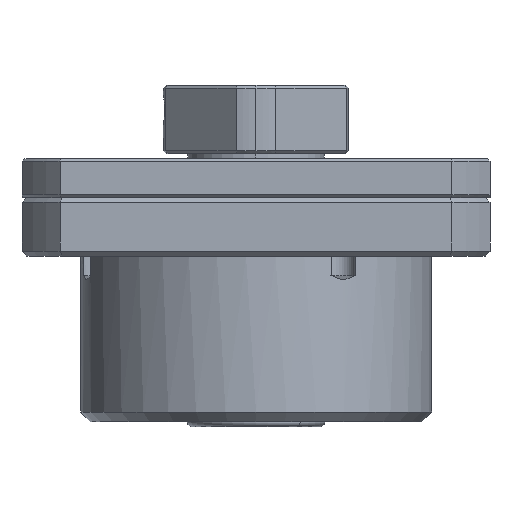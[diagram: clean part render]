
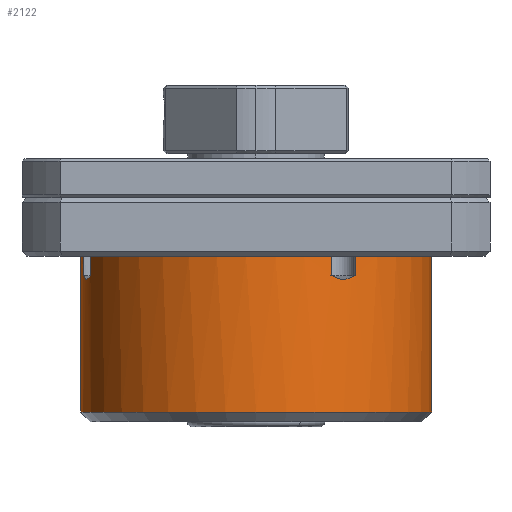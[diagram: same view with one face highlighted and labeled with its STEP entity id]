
A CAD part, front view. The second image highlights one B-rep face of the part: STEP entity #2122.
In plain terms, the highlighted cylindrical face has radius 18 mm (diameter 36 mm), a partial arc.
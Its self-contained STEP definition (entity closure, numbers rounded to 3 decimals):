
#24 = VERTEX_POINT ( 'NONE', #2241 ) ;
#143 = DIRECTION ( 'NONE',  ( 0., 0., 1. ) ) ;
#187 = ORIENTED_EDGE ( 'NONE', *, *, #867, .F. ) ;
#312 = DIRECTION ( 'NONE',  ( 0., 0., 1. ) ) ;
#313 = DIRECTION ( 'NONE',  ( 0., 0., 1. ) ) ;
#333 = ORIENTED_EDGE ( 'NONE', *, *, #2961, .F. ) ;
#352 = VECTOR ( 'NONE', #143, 1000. ) ;
#401 = CARTESIAN_POINT ( 'NONE',  ( -18., 0., -22. ) ) ;
#409 = CARTESIAN_POINT ( 'NONE',  ( -17.121, -5.561, -8.2 ) ) ;
#467 = CARTESIAN_POINT ( 'NONE',  ( -18., 0., 29.63 ) ) ;
#471 = LINE ( 'NONE', #3465, #5618 ) ;
#589 = CIRCLE ( 'NONE', #3298, 18. ) ;
#702 = DIRECTION ( 'NONE',  ( 0., 0., 1. ) ) ;
#800 = CARTESIAN_POINT ( 'NONE',  ( -17.322, -4.893, -8.392 ) ) ;
#828 = CARTESIAN_POINT ( 'NONE',  ( -17.256, -5.122, -8.346 ) ) ;
#867 = EDGE_CURVE ( 'NONE', #4988, #6757, #589, .T. ) ;
#937 = DIRECTION ( 'NONE',  ( 1., 0., 0. ) ) ;
#953 = LINE ( 'NONE', #467, #3035 ) ;
#1023 = CARTESIAN_POINT ( 'NONE',  ( -17.223, -5.233, -8.314 ) ) ;
#1040 = ORIENTED_EDGE ( 'NONE', *, *, #2253, .T. ) ;
#1124 = CARTESIAN_POINT ( 'NONE',  ( -18., 0., -6. ) ) ;
#1145 = VERTEX_POINT ( 'NONE', #6844 ) ;
#1164 = CARTESIAN_POINT ( 'NONE',  ( 7.777, -16.233, -4.287 ) ) ;
#1235 = EDGE_CURVE ( 'NONE', #6854, #6045, #3124, .T. ) ;
#1257 = VECTOR ( 'NONE', #313, 1000. ) ;
#1280 = VERTEX_POINT ( 'NONE', #4037 ) ;
#1530 = DIRECTION ( 'NONE',  ( 0., 0., -1. ) ) ;
#1694 = CARTESIAN_POINT ( 'NONE',  ( 0., 0., -6. ) ) ;
#1700 = CARTESIAN_POINT ( 'NONE',  ( -17.693, -3.31, -8. ) ) ;
#1727 = LINE ( 'NONE', #3968, #5720 ) ;
#1908 = CARTESIAN_POINT ( 'NONE',  ( 0., 0., 29.63 ) ) ;
#2122 = ADVANCED_FACE ( 'NONE', ( #5605 ), #5305, .T. ) ;
#2232 = CARTESIAN_POINT ( 'NONE',  ( -16.978, -5.98, -4.287 ) ) ;
#2240 = CARTESIAN_POINT ( 'NONE',  ( 8.174, -16.039, -8.2 ) ) ;
#2241 = CARTESIAN_POINT ( 'NONE',  ( 18., 0., -6. ) ) ;
#2253 = EDGE_CURVE ( 'NONE', #1280, #24, #471, .T. ) ;
#2318 = CARTESIAN_POINT ( 'NONE',  ( 7.975, -16.138, -8.103 ) ) ;
#2332 = ORIENTED_EDGE ( 'NONE', *, *, #2885, .F. ) ;
#2351 = CARTESIAN_POINT ( 'NONE',  ( 10.17, -14.852, -8. ) ) ;
#2408 = DIRECTION ( 'NONE',  ( 0., 0., -1. ) ) ;
#2453 = ORIENTED_EDGE ( 'NONE', *, *, #7899, .F. ) ;
#2456 = CARTESIAN_POINT ( 'NONE',  ( -16.978, -5.98, -6. ) ) ;
#2661 = ORIENTED_EDGE ( 'NONE', *, *, #4602, .F. ) ;
#2859 = DIRECTION ( 'NONE',  ( 1., 0., 0. ) ) ;
#2885 = EDGE_CURVE ( 'NONE', #3387, #24, #3931, .T. ) ;
#2923 = VERTEX_POINT ( 'NONE', #4088 ) ;
#2951 = CARTESIAN_POINT ( 'NONE',  ( 7.777, -16.233, -8. ) ) ;
#2961 = EDGE_CURVE ( 'NONE', #1145, #7462, #3203, .T. ) ;
#3035 = VECTOR ( 'NONE', #4469, 1000. ) ;
#3100 = ORIENTED_EDGE ( 'NONE', *, *, #5813, .F. ) ;
#3124 = LINE ( 'NONE', #2232, #1257 ) ;
#3138 = EDGE_CURVE ( 'NONE', #3851, #1280, #6025, .T. ) ;
#3172 = AXIS2_PLACEMENT_3D ( 'NONE', #7677, #702, #3393 ) ;
#3203 = LINE ( 'NONE', #1164, #7978 ) ;
#3282 = CARTESIAN_POINT ( 'NONE',  ( 10.17, -14.852, -4.287 ) ) ;
#3298 = AXIS2_PLACEMENT_3D ( 'NONE', #5368, #6598, #2859 ) ;
#3323 = AXIS2_PLACEMENT_3D ( 'NONE', #1694, #7434, #937 ) ;
#3387 = VERTEX_POINT ( 'NONE', #5118 ) ;
#3393 = DIRECTION ( 'NONE',  ( 1., 0., 0. ) ) ;
#3465 = CARTESIAN_POINT ( 'NONE',  ( 18., 0., 29.63 ) ) ;
#3471 = EDGE_CURVE ( 'NONE', #7462, #4229, #5192, .T. ) ;
#3593 = CARTESIAN_POINT ( 'NONE',  ( 9.105, -15.528, -8.406 ) ) ;
#3658 = ORIENTED_EDGE ( 'NONE', *, *, #6689, .F. ) ;
#3787 = DIRECTION ( 'NONE',  ( -1., 0., 0. ) ) ;
#3851 = VERTEX_POINT ( 'NONE', #401 ) ;
#3869 = CARTESIAN_POINT ( 'NONE',  ( 9.21, -15.466, -8.392 ) ) ;
#3877 = EDGE_CURVE ( 'NONE', #3851, #4988, #953, .T. ) ;
#3931 = CIRCLE ( 'NONE', #3323, 18. ) ;
#3968 = CARTESIAN_POINT ( 'NONE',  ( -17.693, -3.31, -4.287 ) ) ;
#4037 = CARTESIAN_POINT ( 'NONE',  ( 18., 0., -22. ) ) ;
#4088 = CARTESIAN_POINT ( 'NONE',  ( -17.693, -3.31, -8. ) ) ;
#4229 = VERTEX_POINT ( 'NONE', #5043 ) ;
#4469 = DIRECTION ( 'NONE',  ( 0., 0., 1. ) ) ;
#4594 = LINE ( 'NONE', #3282, #352 ) ;
#4602 = EDGE_CURVE ( 'NONE', #6045, #1145, #6498, .T. ) ;
#4757 = AXIS2_PLACEMENT_3D ( 'NONE', #6555, #7271, #3787 ) ;
#4777 = CARTESIAN_POINT ( 'NONE',  ( -17.608, -3.744, -8.2 ) ) ;
#4953 = EDGE_LOOP ( 'NONE', ( #7998, #6858, #1040, #2332, #3658, #6551, #333, #2661, #7050, #3100, #2453, #187 ) ) ;
#4988 = VERTEX_POINT ( 'NONE', #1124 ) ;
#5043 = CARTESIAN_POINT ( 'NONE',  ( 10.17, -14.852, -8. ) ) ;
#5118 = CARTESIAN_POINT ( 'NONE',  ( 10.17, -14.852, -6. ) ) ;
#5192 = B_SPLINE_CURVE_WITH_KNOTS ( 'NONE', 3,
 ( #2951, #2318, #2240, #6795, #7327, #3593, #3869, #6074, #6634, #5480, #6102, #2351 ),
 .UNSPECIFIED., .F., .F.,
 ( 4, 2, 2, 2, 2, 4 ),
 ( 0., 0.001, 0.001, 0.002, 0.002, 0.003 ),
 .UNSPECIFIED. ) ;
#5216 = CARTESIAN_POINT ( 'NONE',  ( -17.051, -5.772, -8.103 ) ) ;
#5305 = CYLINDRICAL_SURFACE ( 'NONE', #8114, 18. ) ;
#5327 = CARTESIAN_POINT ( 'NONE',  ( -17.653, -3.527, -8.103 ) ) ;
#5368 = CARTESIAN_POINT ( 'NONE',  ( 0., 0., -6. ) ) ;
#5480 = CARTESIAN_POINT ( 'NONE',  ( 9.803, -15.098, -8.2 ) ) ;
#5605 = FACE_OUTER_BOUND ( 'NONE', #4953, .T. ) ;
#5618 = VECTOR ( 'NONE', #312, 1000. ) ;
#5720 = VECTOR ( 'NONE', #1530, 1000. ) ;
#5813 = EDGE_CURVE ( 'NONE', #2923, #6854, #7421, .T. ) ;
#6025 = CIRCLE ( 'NONE', #4757, 18. ) ;
#6045 = VERTEX_POINT ( 'NONE', #2456 ) ;
#6072 = DIRECTION ( 'NONE',  ( 0., 0., 1. ) ) ;
#6074 = CARTESIAN_POINT ( 'NONE',  ( 9.414, -15.343, -8.346 ) ) ;
#6102 = CARTESIAN_POINT ( 'NONE',  ( 9.989, -14.976, -8.103 ) ) ;
#6498 = CIRCLE ( 'NONE', #3172, 18. ) ;
#6514 = CARTESIAN_POINT ( 'NONE',  ( -16.978, -5.98, -8. ) ) ;
#6551 = ORIENTED_EDGE ( 'NONE', *, *, #3471, .F. ) ;
#6555 = CARTESIAN_POINT ( 'NONE',  ( 0., 0., -22. ) ) ;
#6598 = DIRECTION ( 'NONE',  ( 0., 0., 1. ) ) ;
#6613 = CARTESIAN_POINT ( 'NONE',  ( -17.449, -4.426, -8.406 ) ) ;
#6634 = CARTESIAN_POINT ( 'NONE',  ( 9.512, -15.282, -8.314 ) ) ;
#6689 = EDGE_CURVE ( 'NONE', #4229, #3387, #4594, .T. ) ;
#6757 = VERTEX_POINT ( 'NONE', #7712 ) ;
#6795 = CARTESIAN_POINT ( 'NONE',  ( 8.581, -15.825, -8.352 ) ) ;
#6844 = CARTESIAN_POINT ( 'NONE',  ( 7.777, -16.233, -6. ) ) ;
#6854 = VERTEX_POINT ( 'NONE', #6514 ) ;
#6858 = ORIENTED_EDGE ( 'NONE', *, *, #3138, .T. ) ;
#7043 = CARTESIAN_POINT ( 'NONE',  ( 7.777, -16.233, -8. ) ) ;
#7050 = ORIENTED_EDGE ( 'NONE', *, *, #1235, .F. ) ;
#7223 = CARTESIAN_POINT ( 'NONE',  ( -17.355, -4.775, -8.406 ) ) ;
#7251 = CARTESIAN_POINT ( 'NONE',  ( -16.978, -5.98, -8. ) ) ;
#7271 = DIRECTION ( 'NONE',  ( 0., 0., 1. ) ) ;
#7327 = CARTESIAN_POINT ( 'NONE',  ( 8.791, -15.709, -8.406 ) ) ;
#7421 = B_SPLINE_CURVE_WITH_KNOTS ( 'NONE', 3,
 ( #1700, #5327, #4777, #7800, #6613, #7223, #800, #828, #1023, #409, #5216, #7251 ),
 .UNSPECIFIED., .F., .F.,
 ( 4, 2, 2, 2, 2, 4 ),
 ( 0., 0.001, 0.001, 0.002, 0.002, 0.003 ),
 .UNSPECIFIED. ) ;
#7434 = DIRECTION ( 'NONE',  ( 0., 0., 1. ) ) ;
#7462 = VERTEX_POINT ( 'NONE', #7043 ) ;
#7677 = CARTESIAN_POINT ( 'NONE',  ( 0., 0., -6. ) ) ;
#7712 = CARTESIAN_POINT ( 'NONE',  ( -17.693, -3.31, -6. ) ) ;
#7800 = CARTESIAN_POINT ( 'NONE',  ( -17.506, -4.193, -8.352 ) ) ;
#7899 = EDGE_CURVE ( 'NONE', #6757, #2923, #1727, .T. ) ;
#7926 = DIRECTION ( 'NONE',  ( 1., 0., 0. ) ) ;
#7978 = VECTOR ( 'NONE', #2408, 1000. ) ;
#7998 = ORIENTED_EDGE ( 'NONE', *, *, #3877, .F. ) ;
#8114 = AXIS2_PLACEMENT_3D ( 'NONE', #1908, #6072, #7926 ) ;
